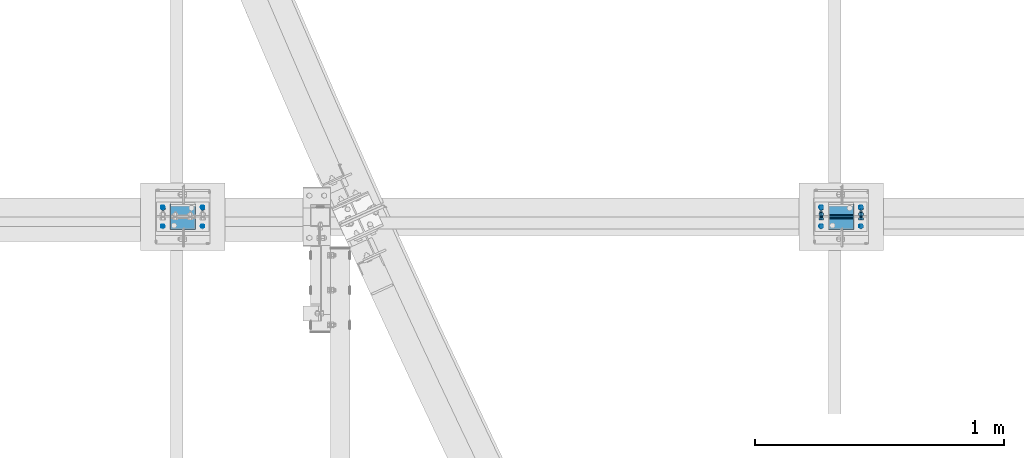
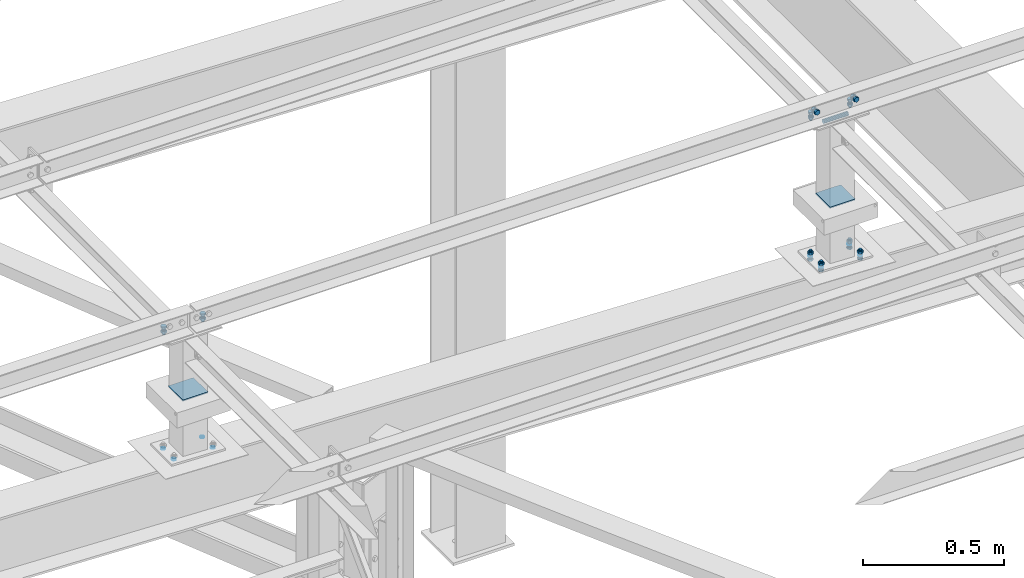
# One storey, part 51 of 3134: 9 mechanical fasteners, 6 elements without a shape of their own.
"""IFC2X3 building model written with IfcOpenShell, lengths in millimetres."""

from ifc_helpers import new_model, si_unit, frame, origin_with_axes, place, context, subcontext, project, spatial, faceted_brep, source, transform, mapped, material, type_object, element, aggregate, save


model = new_model("IFC2X3")

# Units and contexts
model_context = context("Model", 3, precision=1e-05, world=origin_with_axes())
body_context = subcontext(model_context, "Body", "Model", "MODEL_VIEW")
ifc_project = project(units=[si_unit("LENGTHUNIT", "METRE", prefix="MILLI"), si_unit("AREAUNIT", "SQUARE_METRE"), si_unit("VOLUMEUNIT", "CUBIC_METRE"), si_unit("MASSUNIT", "GRAM", prefix="KILO"), si_unit("TIMEUNIT", "SECOND"), si_unit("PLANEANGLEUNIT", "RADIAN"), si_unit("SOLIDANGLEUNIT", "STERADIAN"), si_unit("THERMODYNAMICTEMPERATUREUNIT", "DEGREE_CELSIUS"), si_unit("LUMINOUSINTENSITYUNIT", "LUMEN")], contexts=[model_context])

# Site, building, storey
site_placement = place(None, origin_with_axes())
site = spatial("IfcSite", under=ifc_project, at=site_placement, CompositionType="ELEMENT")
building_placement = place(site_placement, origin_with_axes())
building = spatial("IfcBuilding", under=site, at=building_placement, Name="Undefined", CompositionType="ELEMENT")
storey_placement = place(building_placement, origin_with_axes())
storey = spatial("IfcBuildingStorey", under=building, at=storey_placement, Name="Undefined", CompositionType="ELEMENT", Elevation=0.0)

# Assembly, mechanical fastener
assembly_1_placement = place(storey_placement, origin_with_axes())
assembly_1 = element("IfcElementAssembly", 1, at=assembly_1_placement, inside=storey, AssemblyPlace="NOTDEFINED", PredefinedType="RIGID_FRAME")
ifc_material_1 = material(Name="8.8")
mechanical_fastener_type = type_object("IfcMechanicalFastenerType", Name="Bolt assembly")
shared_shape_1 = source(origin_with_axes(), body_context, "Body", "Brep", [
    faceted_brep([(10.9696551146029, -14.0, 0.0), (5.48482755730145, -14.0, 9.5), (-5.48482755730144, -14.0, 9.5), (-10.9696551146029, -14.0, 1.34339530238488e-15), (-5.48482755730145, -14.0, -9.5), (5.48482755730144, -14.0, -9.50000000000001), (5.48482755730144, -6.0, -9.50000000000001), (-5.48482755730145, -6.0, -9.5), (-10.9696551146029, -6.0, 1.34339530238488e-15), (-5.48482755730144, -6.0, 9.5), (5.48482755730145, -6.0, 9.5), (10.9696551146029, -6.0, 0.0), (6.0, -6.0, 0.0), (5.19615242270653, -6.0, 3.00000000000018), (2.99999999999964, -6.0, 5.19615242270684), (-6.21801588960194e-13, -6.0, 6.0), (-3.00000000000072, -6.0, 5.19615242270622), (-5.19615242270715, -6.0, 2.9999999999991), (-6.0, -6.0, -1.24360317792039e-12), (-5.19615242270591, -6.0, -3.00000000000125), (-2.99999999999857, -6.0, -5.19615242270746), (1.85874342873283e-12, -6.0, -6.0), (3.00000000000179, -6.0, -5.1961524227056), (5.19615242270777, -6.0, -2.99999999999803), (5.19615242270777, 24.0, -2.99999999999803), (3.00000000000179, 24.0, -5.1961524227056), (1.85874342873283e-12, 24.0, -6.0), (-2.99999999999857, 24.0, -5.19615242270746), (-5.19615242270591, 24.0, -3.00000000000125), (-6.0, 24.0, -1.24360317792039e-12), (-5.19615242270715, 24.0, 2.9999999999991), (-3.00000000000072, 24.0, 5.19615242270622), (-6.21801588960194e-13, 24.0, 6.0), (2.99999999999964, 24.0, 5.19615242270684), (5.19615242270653, 24.0, 3.00000000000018), (6.0, 24.0, 0.0), (10.9696551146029, 6.00000000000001, 0.0), (5.48482755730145, 6.00000000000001, 9.5), (-5.48482755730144, 6.00000000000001, 9.5), (-10.9696551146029, 6.00000000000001, 1.34339530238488e-15), (-5.48482755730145, 6.00000000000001, -9.5), (5.48482755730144, 6.00000000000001, -9.50000000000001), (5.48482755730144, 16.0, -9.50000000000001), (-5.48482755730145, 16.0, -9.5), (-10.9696551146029, 16.0, 1.34339530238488e-15), (-5.48482755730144, 16.0, 9.5), (5.48482755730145, 16.0, 9.5), (10.9696551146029, 16.0, 0.0)], [[[0, 1, 2, 3, 4, 5]], [[6, 7, 8, 9, 10, 11]], [[0, 11, 10, 1]], [[1, 10, 9, 2]], [[2, 9, 8, 3]], [[3, 8, 7, 4]], [[4, 7, 6, 5]], [[5, 6, 11, 0]], [[12, 13, 14, 15, 16, 17, 18, 19, 20, 21, 22, 23]], [[24, 25, 26, 27, 28, 29, 30, 31, 32, 33, 34, 35]], [[12, 35, 34, 13]], [[13, 34, 33, 14]], [[14, 33, 32, 15]], [[15, 32, 31, 16]], [[16, 31, 30, 17]], [[17, 30, 29, 18]], [[18, 29, 28, 19]], [[19, 28, 27, 20]], [[20, 27, 26, 21]], [[21, 26, 25, 22]], [[22, 25, 24, 23]], [[23, 24, 35, 12]], [[36, 37, 38, 39, 40, 41]], [[42, 43, 44, 45, 46, 47]], [[36, 47, 46, 37]], [[37, 46, 45, 38]], [[38, 45, 44, 39]], [[39, 44, 43, 40]], [[40, 43, 42, 41]], [[41, 42, 47, 36]]]),
    faceted_brep([(7.0, -0.1, 0.0), (6.06217782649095, -0.1, 3.50000000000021), (3.49999999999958, -0.1, 6.06217782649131), (-7.25435187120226e-13, -0.1, 7.0), (-3.50000000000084, -0.1, 6.06217782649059), (-6.06217782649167, -0.1, 3.49999999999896), (-7.0, -0.1, -1.45087037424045e-12), (-6.06217782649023, -0.1, -3.50000000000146), (-3.49999999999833, -0.1, -6.06217782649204), (2.1685340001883e-12, -0.1, -7.0), (3.50000000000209, -0.1, -6.06217782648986), (6.0621778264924, -0.1, -3.4999999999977), (6.0621778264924, 6.00000000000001, -3.4999999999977), (3.50000000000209, 6.00000000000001, -6.06217782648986), (2.1685340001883e-12, 6.00000000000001, -7.0), (-3.49999999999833, 6.00000000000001, -6.06217782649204), (-6.06217782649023, 6.00000000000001, -3.50000000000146), (-7.0, 6.00000000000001, -1.45087037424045e-12), (-6.06217782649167, 6.00000000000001, 3.49999999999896), (-3.50000000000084, 6.00000000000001, 6.06217782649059), (-7.25435187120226e-13, 6.00000000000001, 7.0), (3.49999999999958, 6.00000000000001, 6.06217782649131), (6.06217782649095, 6.00000000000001, 3.50000000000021), (7.0, 6.00000000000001, 0.0), (7.0, -5.9, 0.0), (6.06217782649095, -5.9, 3.50000000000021), (3.49999999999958, -5.9, 6.06217782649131), (-7.25435187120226e-13, -5.9, 7.0), (-3.50000000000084, -5.9, 6.06217782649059), (-6.06217782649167, -5.9, 3.49999999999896), (-7.0, -5.9, -1.45087037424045e-12), (-6.06217782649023, -5.9, -3.50000000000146), (-3.49999999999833, -5.9, -6.06217782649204), (2.1685340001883e-12, -5.9, -7.0), (3.50000000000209, -5.9, -6.06217782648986), (6.0621778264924, -5.9, -3.4999999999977), (6.0621778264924, 0.0999999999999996, -3.4999999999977), (3.50000000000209, 0.0999999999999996, -6.06217782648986), (2.1685340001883e-12, 0.0999999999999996, -7.0), (-3.49999999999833, 0.0999999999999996, -6.06217782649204), (-6.06217782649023, 0.0999999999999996, -3.50000000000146), (-7.0, 0.0999999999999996, -1.45087037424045e-12), (-6.06217782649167, 0.0999999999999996, 3.49999999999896), (-3.50000000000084, 0.0999999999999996, 6.06217782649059), (-7.25435187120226e-13, 0.0999999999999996, 7.0), (3.49999999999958, 0.0999999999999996, 6.06217782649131), (6.06217782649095, 0.0999999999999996, 3.50000000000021), (7.0, 0.0999999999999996, 0.0)], [[[0, 1, 2, 3, 4, 5, 6, 7, 8, 9, 10, 11]], [[12, 13, 14, 15, 16, 17, 18, 19, 20, 21, 22, 23]], [[0, 23, 22, 1]], [[1, 22, 21, 2]], [[2, 21, 20, 3]], [[3, 20, 19, 4]], [[4, 19, 18, 5]], [[5, 18, 17, 6]], [[6, 17, 16, 7]], [[7, 16, 15, 8]], [[8, 15, 14, 9]], [[9, 14, 13, 10]], [[10, 13, 12, 11]], [[11, 12, 23, 0]], [[24, 25, 26, 27, 28, 29, 30, 31, 32, 33, 34, 35]], [[36, 37, 38, 39, 40, 41, 42, 43, 44, 45, 46, 47]], [[24, 47, 46, 25]], [[25, 46, 45, 26]], [[26, 45, 44, 27]], [[27, 44, 43, 28]], [[28, 43, 42, 29]], [[29, 42, 41, 30]], [[30, 41, 40, 31]], [[31, 40, 39, 32]], [[32, 39, 38, 33]], [[33, 38, 37, 34]], [[34, 37, 36, 35]], [[35, 36, 47, 24]]]),
])
mechanical_fastener_1_placement = place(assembly_1_placement, frame((5691.67, 15225.0, 4365.0), z_axis=(1.0, 0.0, 0.0), x_axis=(0.0, -1.0, 0.0)))
mechanical_fastener_1 = element("IfcMechanicalFastener", 2, at=mechanical_fastener_1_placement, type_object=mechanical_fastener_type, material=ifc_material_1, Name="Bolt assembly", NominalDiameter=12.0, NominalLength=30.0, context=body_context, shape_type="MappedRepresentation", body=[
    mapped(shared_shape_1, transform((0.0, -5.32963895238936e-10, -79.9999999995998))),
    mapped(shared_shape_1, transform((0.0, 5.3114490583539e-10, 79.9999999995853))),
])
aggregate(assembly_1, [mechanical_fastener_1])

assembly_2_placement = place(storey_placement, origin_with_axes())
assembly_2 = element("IfcElementAssembly", 3, at=assembly_2_placement, inside=storey, AssemblyPlace="NOTDEFINED", PredefinedType="RIGID_FRAME")
mechanical_fastener_2_placement = place(assembly_2_placement, frame((8340.0, 15225.0, 4365.0), z_axis=(1.0, 0.0, 0.0), x_axis=(0.0, -1.0, 0.0)))
mechanical_fastener_2 = element("IfcMechanicalFastener", 4, at=mechanical_fastener_2_placement, type_object=mechanical_fastener_type, material=ifc_material_1, Name="Bolt assembly", NominalDiameter=12.0, NominalLength=30.0, context=body_context, shape_type="MappedRepresentation", body=[
    mapped(shared_shape_1, transform((0.0, -5.32963895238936e-10, -79.9999999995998))),
    mapped(shared_shape_1, transform((0.0, 5.3114490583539e-10, 79.9999999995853))),
])

assembly_3_placement = place(storey_placement, origin_with_axes())
assembly_3 = element("IfcElementAssembly", 5, at=assembly_3_placement, inside=storey, AssemblyPlace="NOTDEFINED", PredefinedType="RIGID_FRAME")
shared_shape_2 = source(origin_with_axes(), body_context, "Body", "Brep", [
    faceted_brep([(10.9696551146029, -4.18346828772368, 0.0), (5.48482755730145, -4.18346828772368, 9.5), (-5.48482755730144, -4.18346828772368, 9.5), (-10.9696551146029, -4.18346828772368, 1.34339530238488e-15), (-5.48482755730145, -4.18346828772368, -9.5), (5.48482755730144, -4.18346828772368, -9.50000000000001), (5.48482755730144, 3.81653171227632, -9.50000000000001), (-5.48482755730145, 3.81653171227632, -9.5), (-10.9696551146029, 3.81653171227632, 1.34339530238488e-15), (-5.48482755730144, 3.81653171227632, 9.5), (5.48482755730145, 3.81653171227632, 9.5), (10.9696551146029, 3.81653171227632, 0.0), (6.0, 3.81653171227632, 0.0), (5.19615242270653, 3.81653171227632, 3.00000000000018), (2.99999999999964, 3.81653171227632, 5.19615242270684), (-6.21801588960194e-13, 3.81653171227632, 6.0), (-3.00000000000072, 3.81653171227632, 5.19615242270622), (-5.19615242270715, 3.81653171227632, 2.9999999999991), (-6.0, 3.81653171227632, -1.24360317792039e-12), (-5.19615242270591, 3.81653171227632, -3.00000000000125), (-2.99999999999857, 3.81653171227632, -5.19615242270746), (1.85874342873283e-12, 3.81653171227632, -6.0), (3.00000000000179, 3.81653171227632, -5.1961524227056), (5.19615242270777, 3.81653171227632, -2.99999999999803), (5.19615242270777, 38.8165317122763, -2.99999999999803), (3.00000000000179, 38.8165317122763, -5.1961524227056), (1.85874342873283e-12, 38.8165317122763, -6.0), (-2.99999999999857, 38.8165317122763, -5.19615242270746), (-5.19615242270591, 38.8165317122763, -3.00000000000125), (-6.0, 38.8165317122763, -1.24360317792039e-12), (-5.19615242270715, 38.8165317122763, 2.9999999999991), (-3.00000000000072, 38.8165317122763, 5.19615242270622), (-6.21801588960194e-13, 38.8165317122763, 6.0), (2.99999999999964, 38.8165317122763, 5.19615242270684), (5.19615242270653, 38.8165317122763, 3.00000000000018), (6.0, 38.8165317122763, 0.0), (10.9696551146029, 23.0139082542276, 0.0), (5.48482755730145, 23.0139082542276, 9.5), (-5.48482755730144, 23.0139082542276, 9.5), (-10.9696551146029, 23.0139082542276, 1.34339530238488e-15), (-5.48482755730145, 23.0139082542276, -9.5), (5.48482755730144, 23.0139082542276, -9.50000000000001), (5.48482755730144, 33.0139082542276, -9.50000000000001), (-5.48482755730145, 33.0139082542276, -9.5), (-10.9696551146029, 33.0139082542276, 1.34339530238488e-15), (-5.48482755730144, 33.0139082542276, 9.5), (5.48482755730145, 33.0139082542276, 9.5), (10.9696551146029, 33.0139082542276, 0.0)], [[[0, 1, 2, 3, 4, 5]], [[6, 7, 8, 9, 10, 11]], [[0, 11, 10, 1]], [[1, 10, 9, 2]], [[2, 9, 8, 3]], [[3, 8, 7, 4]], [[4, 7, 6, 5]], [[5, 6, 11, 0]], [[12, 13, 14, 15, 16, 17, 18, 19, 20, 21, 22, 23]], [[24, 25, 26, 27, 28, 29, 30, 31, 32, 33, 34, 35]], [[12, 35, 34, 13]], [[13, 34, 33, 14]], [[14, 33, 32, 15]], [[15, 32, 31, 16]], [[16, 31, 30, 17]], [[17, 30, 29, 18]], [[18, 29, 28, 19]], [[19, 28, 27, 20]], [[20, 27, 26, 21]], [[21, 26, 25, 22]], [[22, 25, 24, 23]], [[23, 24, 35, 12]], [[36, 37, 38, 39, 40, 41]], [[42, 43, 44, 45, 46, 47]], [[36, 47, 46, 37]], [[37, 46, 45, 38]], [[38, 45, 44, 39]], [[39, 44, 43, 40]], [[40, 43, 42, 41]], [[41, 42, 47, 36]]]),
    faceted_brep([(7.0, 3.91653171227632, 0.0), (6.06217782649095, 3.91653171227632, 3.50000000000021), (3.49999999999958, 3.91653171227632, 6.06217782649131), (-7.25435187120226e-13, 3.91653171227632, 7.0), (-3.50000000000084, 3.91653171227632, 6.06217782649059), (-6.06217782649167, 3.91653171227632, 3.49999999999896), (-7.0, 3.91653171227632, -1.45087037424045e-12), (-6.06217782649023, 3.91653171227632, -3.50000000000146), (-3.49999999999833, 3.91653171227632, -6.06217782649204), (2.1685340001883e-12, 3.91653171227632, -7.0), (3.50000000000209, 3.91653171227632, -6.06217782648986), (6.0621778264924, 3.91653171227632, -3.4999999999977), (6.0621778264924, 13.1165315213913, -3.4999999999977), (3.50000000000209, 13.1165315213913, -6.06217782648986), (2.1685340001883e-12, 13.1165315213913, -7.0), (-3.49999999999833, 13.1165315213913, -6.06217782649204), (-6.06217782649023, 13.1165315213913, -3.50000000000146), (-7.0, 13.1165315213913, -1.45087037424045e-12), (-6.06217782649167, 13.1165315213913, 3.49999999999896), (-3.50000000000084, 13.1165315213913, 6.06217782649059), (-7.25435187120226e-13, 13.1165315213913, 7.0), (3.49999999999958, 13.1165315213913, 6.06217782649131), (6.06217782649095, 13.1165315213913, 3.50000000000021), (7.0, 13.1165315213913, 0.0), (7.0, 14.9139082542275, 0.0), (6.06217782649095, 14.9139082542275, 3.50000000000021), (3.49999999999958, 14.9139082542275, 6.06217782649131), (-7.25435187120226e-13, 14.9139082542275, 7.0), (-3.50000000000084, 14.9139082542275, 6.06217782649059), (-6.06217782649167, 14.9139082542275, 3.49999999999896), (-7.0, 14.9139082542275, -1.45087037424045e-12), (-6.06217782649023, 14.9139082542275, -3.50000000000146), (-3.49999999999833, 14.9139082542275, -6.06217782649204), (2.1685340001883e-12, 14.9139082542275, -7.0), (3.50000000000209, 14.9139082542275, -6.06217782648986), (6.0621778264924, 14.9139082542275, -3.4999999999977), (6.0621778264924, 23.0139082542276, -3.4999999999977), (3.50000000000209, 23.0139082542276, -6.06217782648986), (2.1685340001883e-12, 23.0139082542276, -7.0), (-3.49999999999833, 23.0139082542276, -6.06217782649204), (-6.06217782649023, 23.0139082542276, -3.50000000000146), (-7.0, 23.0139082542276, -1.45087037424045e-12), (-6.06217782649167, 23.0139082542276, 3.49999999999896), (-3.50000000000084, 23.0139082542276, 6.06217782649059), (-7.25435187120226e-13, 23.0139082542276, 7.0), (3.49999999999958, 23.0139082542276, 6.06217782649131), (6.06217782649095, 23.0139082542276, 3.50000000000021), (7.0, 23.0139082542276, 0.0)], [[[0, 1, 2, 3, 4, 5, 6, 7, 8, 9, 10, 11]], [[12, 13, 14, 15, 16, 17, 18, 19, 20, 21, 22, 23]], [[0, 23, 22, 1]], [[1, 22, 21, 2]], [[2, 21, 20, 3]], [[3, 20, 19, 4]], [[4, 19, 18, 5]], [[5, 18, 17, 6]], [[6, 17, 16, 7]], [[7, 16, 15, 8]], [[8, 15, 14, 9]], [[9, 14, 13, 10]], [[10, 13, 12, 11]], [[11, 12, 23, 0]], [[24, 25, 26, 27, 28, 29, 30, 31, 32, 33, 34, 35]], [[36, 37, 38, 39, 40, 41, 42, 43, 44, 45, 46, 47]], [[24, 47, 46, 25]], [[25, 46, 45, 26]], [[26, 45, 44, 27]], [[27, 44, 43, 28]], [[28, 43, 42, 29]], [[29, 42, 41, 30]], [[30, 41, 40, 31]], [[31, 40, 39, 32]], [[32, 39, 38, 33]], [[33, 38, 37, 34]], [[34, 37, 36, 35]], [[35, 36, 47, 24]]]),
])
mechanical_fastener_3_placement = place(assembly_3_placement, frame((8339.1931765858, 15227.9999999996, 3735.10000668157), z_axis=(-0.999387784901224, 0.0, 0.0349865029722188), x_axis=(0.0, -1.0, 0.0)))
mechanical_fastener_3 = element("IfcMechanicalFastener", 6, at=mechanical_fastener_3_placement, type_object=mechanical_fastener_type, material=ifc_material_1, Name="Bolt assembly", NominalDiameter=12.0, NominalLength=35.0, context=body_context, shape_type="MappedRepresentation", body=[
    mapped(shared_shape_2, transform((0.0, -5.32963895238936e-10, -79.9999999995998))),
    mapped(shared_shape_2, transform((76.0, -5.32963895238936e-10, -79.9999999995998))),
    mapped(shared_shape_2, transform((0.0, 5.3114490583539e-10, 79.9999999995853))),
    mapped(shared_shape_2, transform((76.0, 5.3114490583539e-10, 79.9999999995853))),
])

assembly_4_placement = place(storey_placement, origin_with_axes())
assembly_4 = element("IfcElementAssembly", 7, at=assembly_4_placement, inside=storey, AssemblyPlace="NOTDEFINED", PredefinedType="RIGID_FRAME")
shared_shape_3 = source(origin_with_axes(), body_context, "Body", "Brep", [
    faceted_brep([(7.0, 13.0000253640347, 0.0), (6.06217782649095, 13.0000253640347, 3.50000000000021), (3.49999999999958, 13.0000253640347, 6.06217782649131), (-7.25435187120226e-13, 13.0000253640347, 7.0), (-3.50000000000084, 13.0000253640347, 6.06217782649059), (-6.06217782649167, 13.0000253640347, 3.49999999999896), (-7.0, 13.0000253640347, -1.45087037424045e-12), (-6.06217782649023, 13.0000253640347, -3.50000000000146), (-3.49999999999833, 13.0000253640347, -6.06217782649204), (2.1685340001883e-12, 13.0000253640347, -7.0), (3.50000000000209, 13.0000253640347, -6.06217782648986), (6.0621778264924, 13.0000253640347, -3.4999999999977), (6.0621778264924, 15.0999999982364, -3.4999999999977), (3.50000000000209, 15.0999999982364, -6.06217782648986), (2.1685340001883e-12, 15.0999999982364, -7.0), (-3.49999999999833, 15.0999999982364, -6.06217782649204), (-6.06217782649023, 15.0999999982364, -3.50000000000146), (-7.0, 15.0999999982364, -1.45087037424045e-12), (-6.06217782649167, 15.0999999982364, 3.49999999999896), (-3.50000000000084, 15.0999999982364, 6.06217782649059), (-7.25435187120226e-13, 15.0999999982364, 7.0), (3.49999999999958, 15.0999999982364, 6.06217782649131), (6.06217782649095, 15.0999999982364, 3.50000000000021), (7.0, 15.0999999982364, 0.0)], [[[0, 1, 2, 3, 4, 5, 6, 7, 8, 9, 10, 11]], [[12, 13, 14, 15, 16, 17, 18, 19, 20, 21, 22, 23]], [[0, 23, 22, 1]], [[1, 22, 21, 2]], [[2, 21, 20, 3]], [[3, 20, 19, 4]], [[4, 19, 18, 5]], [[5, 18, 17, 6]], [[6, 17, 16, 7]], [[7, 16, 15, 8]], [[8, 15, 14, 9]], [[9, 14, 13, 10]], [[10, 13, 12, 11]], [[11, 12, 23, 0]]]),
])
mechanical_fastener_4_placement = place(assembly_4_placement, frame((5690.86474073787, 15227.9999999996, 3827.79222028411), z_axis=(-0.999387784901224, 0.0, 0.0349865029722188), x_axis=(0.0, -1.0, 0.0)))
mechanical_fastener_4 = element("IfcMechanicalFastener", 8, at=mechanical_fastener_4_placement, type_object=mechanical_fastener_type, material=ifc_material_1, Name="Bolt assembly", NominalDiameter=12.0, NominalLength=2.0, context=body_context, shape_type="MappedRepresentation", body=[
    mapped(shared_shape_3, transform((0.0, -5.32963895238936e-10, -79.9999999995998))),
    mapped(shared_shape_3, transform((76.0, -5.32963895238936e-10, -79.9999999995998))),
    mapped(shared_shape_3, transform((0.0, 5.3114490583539e-10, 79.9999999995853))),
    mapped(shared_shape_3, transform((76.0, 5.3114490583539e-10, 79.9999999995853))),
])
aggregate(assembly_4, [mechanical_fastener_4])

assembly_5_placement = place(storey_placement, origin_with_axes())
assembly_5 = element("IfcElementAssembly", 9, at=assembly_5_placement, inside=storey, AssemblyPlace="NOTDEFINED", PredefinedType="RIGID_FRAME")
mechanical_fastener_5_placement = place(assembly_5_placement, frame((8339.1931765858, 15227.9999999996, 3735.10000668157), z_axis=(-0.999387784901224, 0.0, 0.0349865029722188), x_axis=(0.0, -1.0, 0.0)))
mechanical_fastener_5 = element("IfcMechanicalFastener", 10, at=mechanical_fastener_5_placement, type_object=mechanical_fastener_type, material=ifc_material_1, Name="Bolt assembly", NominalDiameter=12.0, NominalLength=2.0, context=body_context, shape_type="MappedRepresentation", body=[
    mapped(shared_shape_3, transform((0.0, -5.32963895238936e-10, -79.9999999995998))),
    mapped(shared_shape_3, transform((76.0, -5.32963895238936e-10, -79.9999999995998))),
    mapped(shared_shape_3, transform((0.0, 5.3114490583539e-10, 79.9999999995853))),
    mapped(shared_shape_3, transform((76.0, 5.3114490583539e-10, 79.9999999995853))),
])
aggregate(assembly_5, [mechanical_fastener_5])

# Mechanical fastener
shared_shape_4 = source(origin_with_axes(), body_context, "Body", "Brep", [
    faceted_brep([(9.0, -50.0, 0.0), (7.79422863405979, -50.0, 4.50000000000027), (4.49999999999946, -50.0, 7.79422863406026), (-9.3270238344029e-13, -50.0, 9.0), (-4.50000000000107, -50.0, 7.79422863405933), (-7.79422863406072, -50.0, 4.49999999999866), (-9.0, -50.0, -1.86540476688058e-12), (-7.79422863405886, -50.0, -4.50000000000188), (-4.49999999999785, -50.0, -7.79422863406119), (2.78811514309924e-12, -50.0, -9.0), (4.50000000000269, -50.0, -7.7942286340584), (7.79422863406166, -50.0, -4.49999999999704), (7.79422863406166, 50.1, -4.49999999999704), (4.50000000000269, 50.1, -7.7942286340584), (2.78811514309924e-12, 50.1, -9.0), (-4.49999999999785, 50.1, -7.79422863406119), (-7.79422863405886, 50.1, -4.50000000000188), (-9.0, 50.1, -1.86540476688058e-12), (-7.79422863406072, 50.1, 4.49999999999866), (-4.50000000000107, 50.1, 7.79422863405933), (-9.3270238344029e-13, 50.1, 9.0), (4.49999999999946, 50.1, 7.79422863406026), (7.79422863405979, 50.1, 4.50000000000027), (9.0, 50.1, 0.0)], [[[0, 1, 2, 3, 4, 5, 6, 7, 8, 9, 10, 11]], [[12, 13, 14, 15, 16, 17, 18, 19, 20, 21, 22, 23]], [[0, 23, 22, 1]], [[1, 22, 21, 2]], [[2, 21, 20, 3]], [[3, 20, 19, 4]], [[4, 19, 18, 5]], [[5, 18, 17, 6]], [[6, 17, 16, 7]], [[7, 16, 15, 8]], [[8, 15, 14, 9]], [[9, 14, 13, 10]], [[10, 13, 12, 11]], [[11, 12, 23, 0]]]),
])
mechanical_fastener_6_placement = place(assembly_3_placement, frame((8340.0, 15190.0, 4345.0), z_axis=(0.0, 1.0, 0.0), x_axis=(0.0, 0.0, 1.0)))
mechanical_fastener_6 = element("IfcMechanicalFastener", 11, at=mechanical_fastener_6_placement, type_object=mechanical_fastener_type, material=ifc_material_1, Name="Bolt assembly", NominalDiameter=16.0, NominalLength=100.0, context=body_context, shape_type="MappedRepresentation", body=[
    mapped(shared_shape_4, transform((0.0, 0.0, 0.0))),
])

# Assembly, mechanical fastener
assembly_6_placement = place(storey_placement, origin_with_axes())
assembly_6 = element("IfcElementAssembly", 12, at=assembly_6_placement, inside=storey, AssemblyPlace="NOTDEFINED", PredefinedType="RIGID_FRAME")
ifc_material_2 = material(Name="6.8")
shared_shape_5 = source(origin_with_axes(), body_context, "Body", "Brep", [
    faceted_brep([(51.5, 1.36424205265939e-12, 50.0), (51.3858192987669, 1.36424205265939e-12, 50.5740251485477), (51.0606601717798, 1.36424205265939e-12, 51.0606601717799), (50.5740251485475, 1.36424205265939e-12, 51.385819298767), (-50.0000000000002, 1.36424205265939e-12, 51.5), (-50.7500000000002, 1.36424205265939e-12, 51.2990381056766), (-51.2990381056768, 1.36424205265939e-12, 50.7499999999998), (-51.5, 1.36424205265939e-12, 49.9999999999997), (-51.5, 1.36424205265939e-12, -50.0000000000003), (-51.2990381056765, 1.36424205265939e-12, -50.7500000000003), (-50.7499999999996, 1.36424205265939e-12, -51.2990381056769), (-49.9999999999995, 1.36424205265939e-12, -51.5), (50.0000000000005, 1.36424205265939e-12, -51.5), (50.7500000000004, 1.36424205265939e-12, -51.2990381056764), (51.2990381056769, 1.36424205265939e-12, -50.7499999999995), (51.5, 1.36424205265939e-12, -49.9999999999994), (51.5, 5.10000000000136, -49.9999999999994), (51.2990381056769, 5.10000000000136, -50.7499999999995), (50.7500000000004, 5.10000000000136, -51.2990381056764), (50.0000000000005, 5.10000000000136, -51.5), (-49.9999999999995, 5.10000000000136, -51.5), (-50.7499999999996, 5.10000000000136, -51.2990381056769), (-51.2990381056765, 5.10000000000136, -50.7500000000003), (-51.5, 5.10000000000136, -50.0000000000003), (-51.5, 5.10000000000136, 49.9999999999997), (-51.2990381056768, 5.10000000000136, 50.7499999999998), (-50.7500000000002, 5.10000000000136, 51.2990381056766), (-50.0000000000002, 5.10000000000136, 51.5), (50.5740251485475, 5.10000000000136, 51.385819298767), (51.0606601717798, 5.10000000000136, 51.0606601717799), (51.3858192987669, 5.10000000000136, 50.5740251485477), (51.5, 5.10000000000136, 50.0)], [[[0, 1, 2, 3, 4, 5, 6, 7, 8, 9, 10, 11, 12, 13, 14, 15]], [[16, 17, 18, 19, 20, 21, 22, 23, 24, 25, 26, 27, 28, 29, 30, 31]], [[0, 31, 30, 1]], [[1, 30, 29, 2]], [[2, 29, 28, 3]], [[3, 28, 27, 4]], [[4, 27, 26, 5]], [[5, 26, 25, 6]], [[6, 25, 24, 7]], [[7, 24, 23, 8]], [[8, 23, 22, 9]], [[9, 22, 21, 10]], [[10, 21, 20, 11]], [[11, 20, 19, 12]], [[12, 19, 18, 13]], [[13, 18, 17, 14]], [[14, 17, 16, 15]], [[15, 16, 31, 0]]]),
])
mechanical_fastener_7_placement = place(assembly_6_placement, frame((5691.66156415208, 15190.0, 4097.5922136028), z_axis=(0.0, -1.0, 0.0), x_axis=(-1.0, 0.0, 0.0)))
mechanical_fastener_7 = element("IfcMechanicalFastener", 13, at=mechanical_fastener_7_placement, type_object=mechanical_fastener_type, material=ifc_material_2, Name="Bolt assembly", NominalDiameter=10.0, NominalLength=5.0, context=body_context, shape_type="MappedRepresentation", body=[
    mapped(shared_shape_5, transform((0.0, 0.0, 0.0))),
])
aggregate(assembly_6, [mechanical_fastener_7])

# Mechanical fastener
mechanical_fastener_8_placement = place(assembly_3_placement, frame((8340.0, 15190.0, 4004.89), z_axis=(0.0, -1.0, 0.0), x_axis=(-1.0, 0.0, 0.0)))
mechanical_fastener_8 = element("IfcMechanicalFastener", 14, at=mechanical_fastener_8_placement, type_object=mechanical_fastener_type, material=ifc_material_2, Name="Bolt assembly", NominalDiameter=10.0, NominalLength=5.0, context=body_context, shape_type="MappedRepresentation", body=[
    mapped(shared_shape_5, transform((0.0, 0.0, 0.0))),
])

aggregate(assembly_3, [mechanical_fastener_3, mechanical_fastener_8, mechanical_fastener_6])

shared_shape_6 = source(origin_with_axes(), body_context, "Body", "Brep", [
    faceted_brep([(10.9696551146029, -12.0, 0.0), (5.48482755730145, -12.0, 9.5), (-5.48482755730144, -12.0, 9.5), (-10.9696551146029, -12.0, 1.34339530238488e-15), (-5.48482755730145, -12.0, -9.5), (5.48482755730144, -12.0, -9.50000000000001), (5.48482755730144, -4.0, -9.50000000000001), (-5.48482755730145, -4.0, -9.5), (-10.9696551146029, -4.0, 1.34339530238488e-15), (-5.48482755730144, -4.0, 9.5), (5.48482755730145, -4.0, 9.5), (10.9696551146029, -4.0, 0.0), (6.0, -4.0, 0.0), (5.19615242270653, -4.0, 3.00000000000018), (2.99999999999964, -4.0, 5.19615242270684), (-6.21801588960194e-13, -4.0, 6.0), (-3.00000000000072, -4.0, 5.19615242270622), (-5.19615242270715, -4.0, 2.9999999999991), (-6.0, -4.0, -1.24360317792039e-12), (-5.19615242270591, -4.0, -3.00000000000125), (-2.99999999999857, -4.0, -5.19615242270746), (1.85874342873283e-12, -4.0, -6.0), (3.00000000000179, -4.0, -5.1961524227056), (5.19615242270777, -4.0, -2.99999999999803), (5.19615242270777, 21.0, -2.99999999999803), (3.00000000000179, 21.0, -5.1961524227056), (1.85874342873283e-12, 21.0, -6.0), (-2.99999999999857, 21.0, -5.19615242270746), (-5.19615242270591, 21.0, -3.00000000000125), (-6.0, 21.0, -1.24360317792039e-12), (-5.19615242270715, 21.0, 2.9999999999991), (-3.00000000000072, 21.0, 5.19615242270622), (-6.21801588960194e-13, 21.0, 6.0), (2.99999999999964, 21.0, 5.19615242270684), (5.19615242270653, 21.0, 3.00000000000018), (6.0, 21.0, 0.0), (10.9696551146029, 6.00000000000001, 0.0), (5.48482755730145, 6.00000000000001, 9.5), (-5.48482755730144, 6.00000000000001, 9.5), (-10.9696551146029, 6.00000000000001, 1.34339530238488e-15), (-5.48482755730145, 6.00000000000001, -9.5), (5.48482755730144, 6.00000000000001, -9.50000000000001), (5.48482755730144, 16.0, -9.50000000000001), (-5.48482755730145, 16.0, -9.5), (-10.9696551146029, 16.0, 1.34339530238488e-15), (-5.48482755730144, 16.0, 9.5), (5.48482755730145, 16.0, 9.5), (10.9696551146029, 16.0, 0.0)], [[[0, 1, 2, 3, 4, 5]], [[6, 7, 8, 9, 10, 11]], [[0, 11, 10, 1]], [[1, 10, 9, 2]], [[2, 9, 8, 3]], [[3, 8, 7, 4]], [[4, 7, 6, 5]], [[5, 6, 11, 0]], [[12, 13, 14, 15, 16, 17, 18, 19, 20, 21, 22, 23]], [[24, 25, 26, 27, 28, 29, 30, 31, 32, 33, 34, 35]], [[12, 35, 34, 13]], [[13, 34, 33, 14]], [[14, 33, 32, 15]], [[15, 32, 31, 16]], [[16, 31, 30, 17]], [[17, 30, 29, 18]], [[18, 29, 28, 19]], [[19, 28, 27, 20]], [[20, 27, 26, 21]], [[21, 26, 25, 22]], [[22, 25, 24, 23]], [[23, 24, 35, 12]], [[36, 37, 38, 39, 40, 41]], [[42, 43, 44, 45, 46, 47]], [[36, 47, 46, 37]], [[37, 46, 45, 38]], [[38, 45, 44, 39]], [[39, 44, 43, 40]], [[40, 43, 42, 41]], [[41, 42, 47, 36]]]),
    faceted_brep([(7.0, -3.9, 0.0), (6.06217782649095, -3.9, 3.50000000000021), (3.49999999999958, -3.9, 6.06217782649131), (-7.25435187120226e-13, -3.9, 7.0), (-3.50000000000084, -3.9, 6.06217782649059), (-6.06217782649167, -3.9, 3.49999999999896), (-7.0, -3.9, -1.45087037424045e-12), (-6.06217782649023, -3.9, -3.50000000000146), (-3.49999999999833, -3.9, -6.06217782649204), (2.1685340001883e-12, -3.9, -7.0), (3.50000000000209, -3.9, -6.06217782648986), (6.0621778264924, -3.9, -3.4999999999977), (6.0621778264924, 0.0999999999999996, -3.4999999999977), (3.50000000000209, 0.0999999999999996, -6.06217782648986), (2.1685340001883e-12, 0.0999999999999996, -7.0), (-3.49999999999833, 0.0999999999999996, -6.06217782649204), (-6.06217782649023, 0.0999999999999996, -3.50000000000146), (-7.0, 0.0999999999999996, -1.45087037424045e-12), (-6.06217782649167, 0.0999999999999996, 3.49999999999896), (-3.50000000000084, 0.0999999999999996, 6.06217782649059), (-7.25435187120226e-13, 0.0999999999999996, 7.0), (3.49999999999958, 0.0999999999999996, 6.06217782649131), (6.06217782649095, 0.0999999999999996, 3.50000000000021), (7.0, 0.0999999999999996, 0.0), (7.0, -0.1, 0.0), (6.06217782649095, -0.1, 3.50000000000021), (3.49999999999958, -0.1, 6.06217782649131), (-7.25435187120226e-13, -0.1, 7.0), (-3.50000000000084, -0.1, 6.06217782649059), (-6.06217782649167, -0.1, 3.49999999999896), (-7.0, -0.1, -1.45087037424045e-12), (-6.06217782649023, -0.1, -3.50000000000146), (-3.49999999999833, -0.1, -6.06217782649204), (2.1685340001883e-12, -0.1, -7.0), (3.50000000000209, -0.1, -6.06217782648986), (6.0621778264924, -0.1, -3.4999999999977), (6.0621778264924, 6.00000000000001, -3.4999999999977), (3.50000000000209, 6.00000000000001, -6.06217782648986), (2.1685340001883e-12, 6.00000000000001, -7.0), (-3.49999999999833, 6.00000000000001, -6.06217782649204), (-6.06217782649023, 6.00000000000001, -3.50000000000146), (-7.0, 6.00000000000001, -1.45087037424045e-12), (-6.06217782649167, 6.00000000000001, 3.49999999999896), (-3.50000000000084, 6.00000000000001, 6.06217782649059), (-7.25435187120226e-13, 6.00000000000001, 7.0), (3.49999999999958, 6.00000000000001, 6.06217782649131), (6.06217782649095, 6.00000000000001, 3.50000000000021), (7.0, 6.00000000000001, 0.0)], [[[0, 1, 2, 3, 4, 5, 6, 7, 8, 9, 10, 11]], [[12, 13, 14, 15, 16, 17, 18, 19, 20, 21, 22, 23]], [[0, 23, 22, 1]], [[1, 22, 21, 2]], [[2, 21, 20, 3]], [[3, 20, 19, 4]], [[4, 19, 18, 5]], [[5, 18, 17, 6]], [[6, 17, 16, 7]], [[7, 16, 15, 8]], [[8, 15, 14, 9]], [[9, 14, 13, 10]], [[10, 13, 12, 11]], [[11, 12, 23, 0]], [[24, 25, 26, 27, 28, 29, 30, 31, 32, 33, 34, 35]], [[36, 37, 38, 39, 40, 41, 42, 43, 44, 45, 46, 47]], [[24, 47, 46, 25]], [[25, 46, 45, 26]], [[26, 45, 44, 27]], [[27, 44, 43, 28]], [[28, 43, 42, 29]], [[29, 42, 41, 30]], [[30, 41, 40, 31]], [[31, 40, 39, 32]], [[32, 39, 38, 33]], [[33, 38, 37, 34]], [[34, 37, 36, 35]], [[35, 36, 47, 24]]]),
])
mechanical_fastener_9_placement = place(assembly_2_placement, frame((8340.0, 15190.0, 4400.0), z_axis=(1.0, 0.0, 0.0), x_axis=(0.0, 0.0, -1.0)))
mechanical_fastener_9 = element("IfcMechanicalFastener", 15, at=mechanical_fastener_9_placement, type_object=mechanical_fastener_type, material=ifc_material_1, Name="Bolt assembly", NominalDiameter=12.0, NominalLength=25.0, context=body_context, shape_type="MappedRepresentation", body=[
    mapped(shared_shape_6, transform((0.0, -5.32963895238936e-10, -79.9999999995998))),
    mapped(shared_shape_6, transform((0.0, 5.3114490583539e-10, 79.9999999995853))),
])

aggregate(assembly_2, [mechanical_fastener_9, mechanical_fastener_2])

save(model, "model.ifc")
